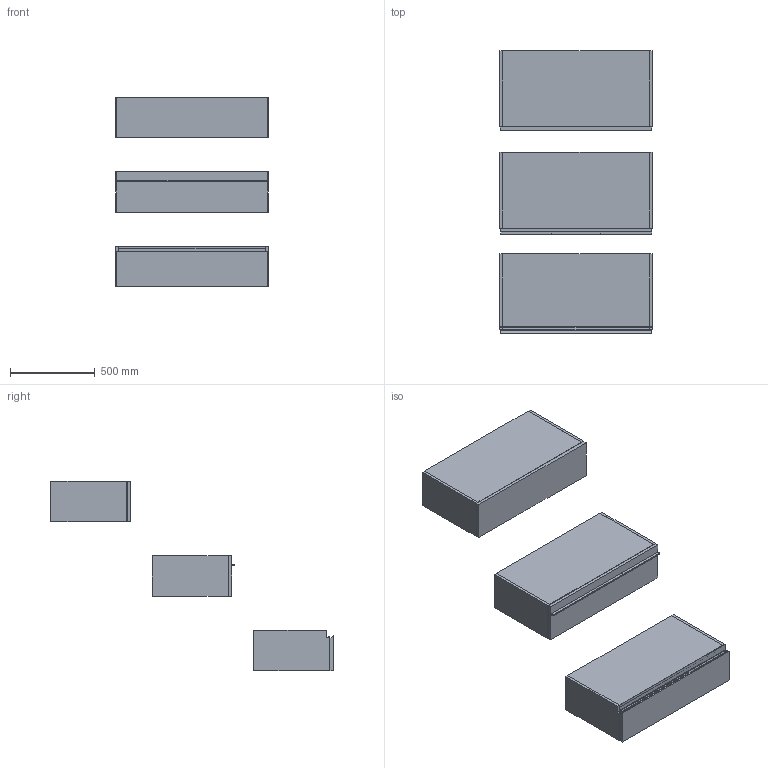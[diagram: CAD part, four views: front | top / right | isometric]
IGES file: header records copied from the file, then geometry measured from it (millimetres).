
Start section: Data from Parasolid IGES Translator 19.0.9, Copyright(c) 2006 Siemens PL M Software. All Rights Reserved.
Global section: file name: noorth-SI-H 24 D 47 W 90_8293.igs; native system: By Siemens PLM Incorporated; preprocessor: XPlus GENERIC/IGES 19.0.9; author: Noname; organization: Noname; date: 20200530.113905; units: metre
Bounding box: 900.01 x 1669.1 x 1120 mm (x, y, z)
Volume: 60771217.5 mm3; surface area: 8925704.7 mm2
Topology: 20 solids, 20 shells, 178 faces, 382 edges, 234 vertices
Faces by surface type: plane 134, extrusion 16, bspline 16, cylinder 12
